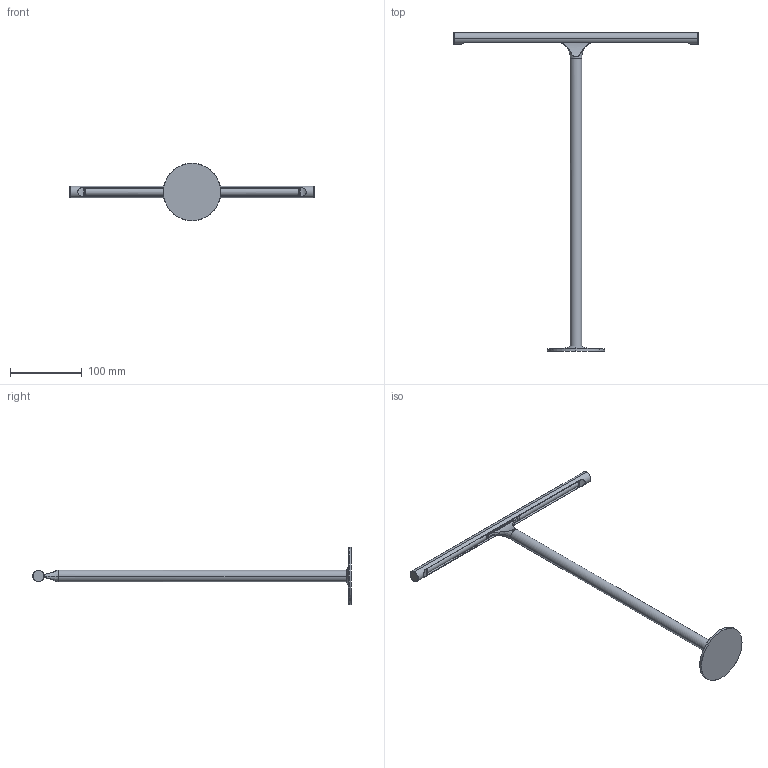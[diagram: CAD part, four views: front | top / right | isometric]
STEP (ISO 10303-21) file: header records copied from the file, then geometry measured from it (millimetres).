
FILE_DESCRIPTION (( 'STEP AP203' ), '1' );
FILE_NAME ('Gallery - Integrated 340 Bankers Lamp.STEP', '2024-03-25T03:01:12', ( '' ), ( '' ), 'SwSTEP 2.0', 'SolidWorks 2017', '' );
FILE_SCHEMA (( 'CONFIG_CONTROL_DESIGN' ));
Length unit declared in the file: millimetre
Products named in the file (1): Gallery - Integrated 340 Bankers Lamp
Bounding box: 340 x 443 x 80 mm (x, y, z)
Volume: 161103.8 mm3; surface area: 61638.7 mm2
Topology: 3 solids, 3 shells, 194 faces, 487 edges, 302 vertices
Faces by surface type: plane 80, cylinder 59, bspline 30, torus 17, cone 6, sphere 2
Entity records: 7705 total; most frequent: CARTESIAN_POINT 3186, ORIENTED_EDGE 966, DIRECTION 880, EDGE_CURVE 483, AXIS2_PLACEMENT_3D 322, VERTEX_POINT 300, LINE 236, VECTOR 236
